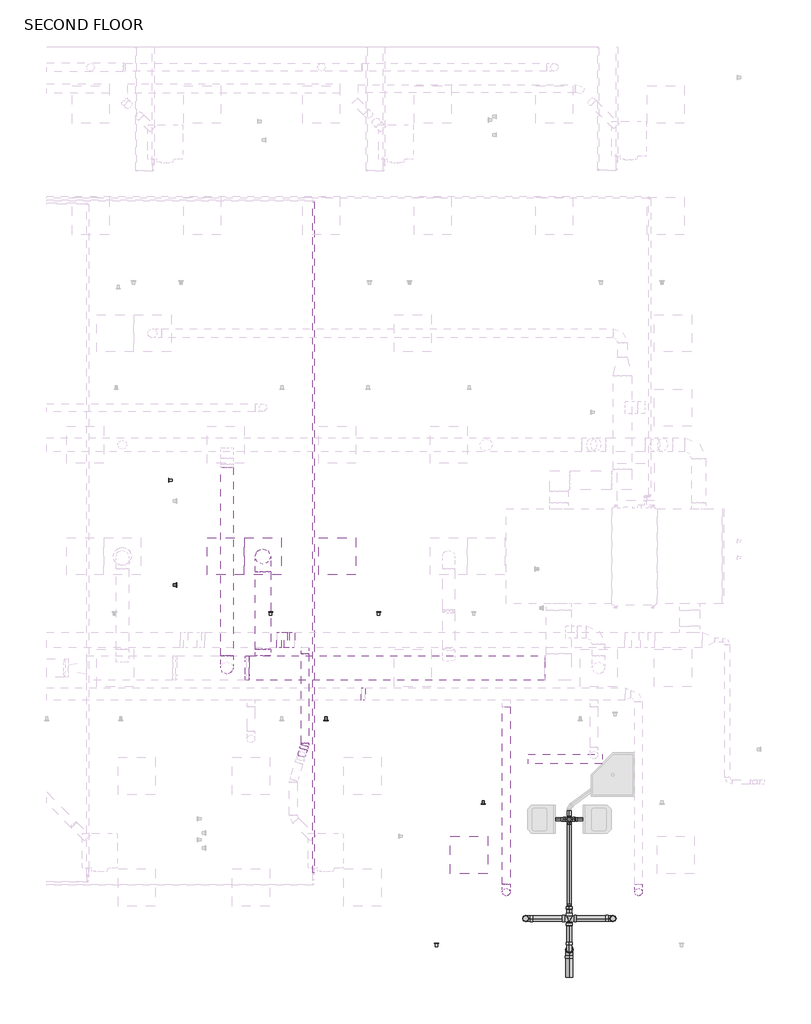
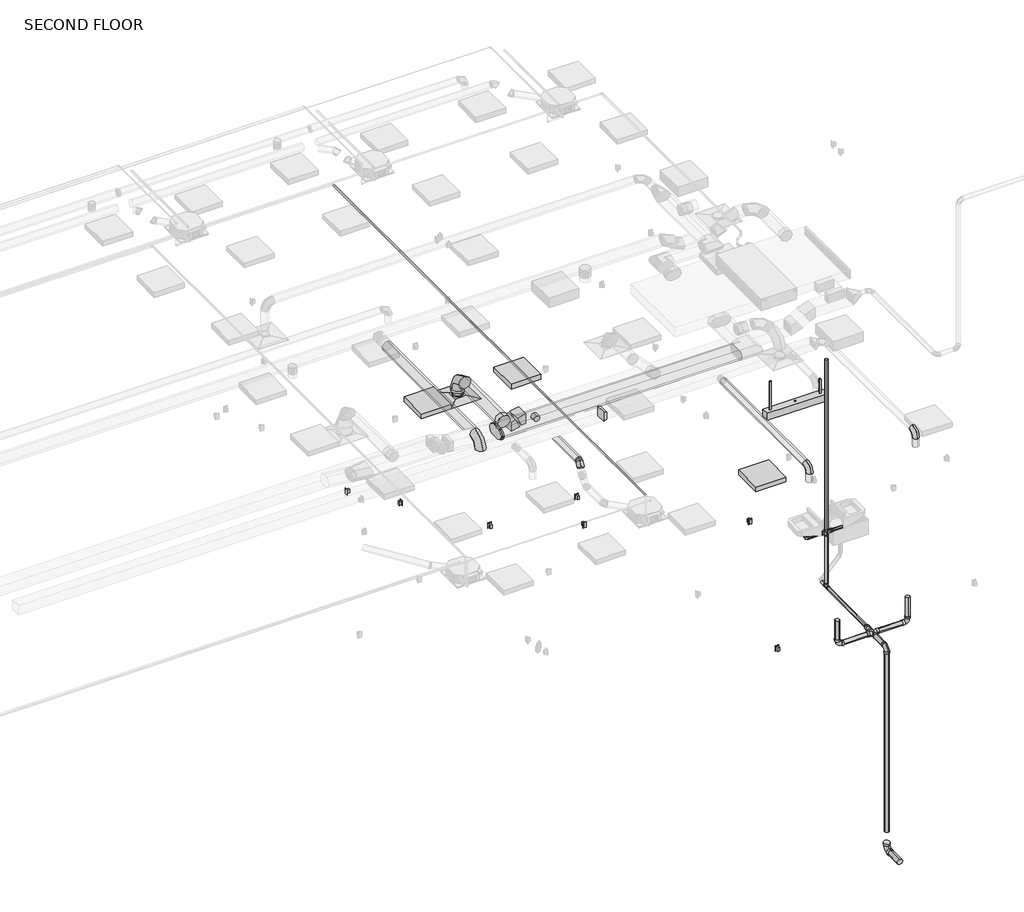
# One storey, part 4 of 12: 17 pipe segments, 13 duct fittings, 12 pipe fittings, 10 duct segments, 4 light fixtures, 3 switching devices, 2 electric appliances, 2 proxies, 1 air terminal.
"""IFC4 building model written with IfcOpenShell, lengths in millimetres."""

from ifc_helpers import new_model, si_unit, point, frame, frame_2d, origin, place, context, project, spatial, polyline, circle_curve, trimmed, segment, composite_curve, outline, extrude, transform, mapped, element, save
from components import air_terminal_e9020785, duplex_receptacle_countertop_10251bba, oval_elbow_mitered_standard_605f781d, rectangular_elbow_radius_1_5_w_1e05c444, rectangular_transition_angle_45_degree_f04e55b7, round_elbow_1_d_eb5e9ad8, round_elbow_1_d_01278626, round_elbow_1_d_a253342a, round_elbow_1_d_c80420c1, round_elbow_1_d_e3dc691b, round_takeoff_standard_7fe2b2d5, round_takeoff_standard_86724b47, round_transition_angle_45_degree_6c335ea7, telephone_outlet_data_plain_18c24199, suspended_fluorescent_strip_non_hosted_strip_light_1x4_120v_a5e6163e, troffer_corner_insert_2x2_3lamp_e67c7f8f, bend_pvc_sch_40_dwv_standard_738aab8b, bend_pvc_sch_40_dwv_standard_a4b99d37, bend_pvc_sch_40_dwv_standard_5536a2d2, bend_pvc_sch_40_dwv_standard_1fb0f857, reducer_pvc_sch_40_dwv_standard_44865e00, reducer_pvc_sch_40_dwv_standard_230e9924, tee_double_sanitary_pvc_sch_40_dwv_standard_0560fe9e, tee_double_sanitary_pvc_sch_40_dwv_standard_2fd41c53, tee_sanitary_pvc_sch_40_dwv_standard_c06fe43b

model = new_model("IFC4")

# Units and contexts
model_context = context("Model", 3, world=origin())
ifc_project = project(units=[si_unit("LENGTHUNIT", "METRE", prefix="MILLI")], contexts=[model_context])

# Site, building, storey
site = spatial("IfcSite", under=ifc_project)
building = spatial("IfcBuilding", under=site)
storey = spatial("IfcBuildingStorey", under=building, Name="SECOND FLOOR", Elevation=34544.0)

# Air terminal
placement = place(None, origin())
air_terminal_shape = air_terminal_e9020785(model_context)
element("IfcAirTerminal", 1, ObjectType="Supply Diffuser - Rectangular Face Round Neck - Hosted : 24\"x24\" Face 8\" Neck - Hosted", at=placement, inside=storey, context=model_context, shape_type="MappedRepresentation", body=[
    mapped(air_terminal_shape, transform((5669.1232893, -751.4804995, 37287.2), x_axis=(-1.0, 0.0, 0.0), y_axis=(0.0, 1.0, 0.0), z_axis=(0.0, 0.0, -1.0))),
])

# Proxies
duplex_receptacle_countertop_shape = duplex_receptacle_countertop_10251bba(model_context)
element("IfcBuildingElementProxy", 2, Name="Duplex Receptacle : GFCI", ObjectType="Duplex Receptacle : GFCI", at=placement, inside=storey, context=model_context, shape_type="MappedRepresentation", body=[
    mapped(duplex_receptacle_countertop_shape, transform((8516.31879, -7095.1304995, 34696.4), x_axis=(-1.0, 0.0, 0.0), y_axis=(0.0, 0.0, 1.0), z_axis=(0.0, 1.0, 0.0))),
])
element("IfcBuildingElementProxy", 3, Name="Duplex Receptacle : Standard", ObjectType="Duplex Receptacle : Standard", at=placement, inside=storey, context=model_context, shape_type="MappedRepresentation", body=[
    mapped(duplex_receptacle_countertop_shape, transform((5796.2112859, -1665.8804995, 35001.2), x_axis=(-1.0, 0.0, 0.0), y_axis=(0.0, 0.0, 1.0), z_axis=(0.0, 1.0, 0.0))),
])

# Duct fittings
oval_elbow_mitered_standard_shape = oval_elbow_mitered_standard_605f781d(model_context)
element("IfcDuctFitting", 4, ObjectType="Oval Elbow - Mitered : Standard", at=placement, inside=storey, context=model_context, shape_type="MappedRepresentation", body=[
    mapped(oval_elbow_mitered_standard_shape, transform((5416.9741542, -2580.2804995, 37711.1892428), x_axis=(-1.0, 0.0, 0.0), y_axis=(0.0, 0.0, 1.0), z_axis=(0.0, 1.0, 0.0))),
])
rectangular_elbow_radius_1_5_w_shape = rectangular_elbow_radius_1_5_w_1e05c444(model_context)
element("IfcDuctFitting", 5, ObjectType="Rectangular Elbow - Radius : 1.5 W", at=placement, inside=storey, context=model_context, shape_type="MappedRepresentation", body=[
    mapped(rectangular_elbow_radius_1_5_w_shape, transform((6123.5451964, -2123.0804995, 37515.8), x_axis=(-1.0, 0.0, 0.0), y_axis=(0.0, 0.0, -1.0), z_axis=(0.0, -1.0, 0.0))),
])
element("IfcDuctFitting", 6, ObjectType="Rectangular Elbow - Radius : 1.5 W", at=placement, inside=storey, context=model_context, shape_type="MappedRepresentation", body=[
    mapped(rectangular_elbow_radius_1_5_w_shape, transform((5964.0014464, -2123.0804995, 37439.6), x_axis=(1.0, 0.0, 0.0), y_axis=(0.0, 0.0, 1.0), z_axis=(0.0, -1.0, 0.0))),
])
rectangular_transition_angle_45_degree_shape = rectangular_transition_angle_45_degree_f04e55b7(model_context)
element("IfcDuctFitting", 7, ObjectType="Rectangular Transition - Angle : 45 Degree", at=placement, inside=storey, context=model_context, shape_type="MappedRepresentation", body=[
    mapped(rectangular_transition_angle_45_degree_shape, transform((7344.8230026, -3010.2706668, 37693.6), x_axis=(-1.0, 0.0, 0.0), y_axis=(0.0, -1.0, 0.0), z_axis=(0.0, 0.0, 1.0))),
])
round_elbow_1_d_shape = round_elbow_1_d_eb5e9ad8(model_context)
element("IfcDuctFitting", 8, ObjectType="Round Elbow : 1 D", at=placement, inside=storey, context=model_context, shape_type="MappedRepresentation", body=[
    mapped(round_elbow_1_d_shape, transform((5669.1232893, -751.4804995, 37711.1617188), x_axis=(0.0, 0.0, 1.0), y_axis=(0.0, -1.0, 0.0), z_axis=(1.0, 0.0, 0.0))),
])
round_elbow_1_d_2_shape = round_elbow_1_d_01278626(model_context)
element("IfcDuctFitting", 9, ObjectType="Round Elbow : 1 D", at=placement, inside=storey, context=model_context, shape_type="MappedRepresentation", body=[
    mapped(round_elbow_1_d_2_shape, transform((6360.2841398, -3835.1472328, 37515.8), x_axis=(0.30330149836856, 0.9528946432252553, 0.0), y_axis=(-0.9528946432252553, 0.30330149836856, 0.0), z_axis=(0.0, 0.0, 1.0))),
])
round_elbow_1_d_3_shape = round_elbow_1_d_a253342a(model_context)
element("IfcDuctFitting", 10, ObjectType="Round Elbow : 1 D", at=placement, inside=storey, context=model_context, shape_type="MappedRepresentation", body=[
    mapped(round_elbow_1_d_3_shape, transform((5077.7795393, -2580.2804995, 37668.2), x_axis=(0.0, 0.0, 1.0), y_axis=(0.0, 1.0, 0.0), z_axis=(-1.0, 0.0, 0.0))),
])
round_elbow_1_d_4_shape = round_elbow_1_d_c80420c1(model_context)
element("IfcDuctFitting", 11, ObjectType="Round Elbow : 1 D", at=placement, inside=storey, context=model_context, shape_type="MappedRepresentation", body=[
    mapped(round_elbow_1_d_4_shape, transform((11827.8295393, -6256.9304995, 37693.6), x_axis=(0.0, 0.0, 1.0), y_axis=(0.0, 1.0, 0.0), z_axis=(-1.0, 0.0, 0.0))),
])
element("IfcDuctFitting", 12, ObjectType="Round Elbow : 1 D", at=placement, inside=storey, context=model_context, shape_type="MappedRepresentation", body=[
    mapped(round_elbow_1_d_4_shape, transform((9659.3045393, -6256.9304995, 37693.6), x_axis=(0.0, 0.0, 1.0), y_axis=(0.0, 1.0, 0.0), z_axis=(-1.0, 0.0, 0.0))),
])
round_elbow_1_d_5_shape = round_elbow_1_d_e3dc691b(model_context)
element("IfcDuctFitting", 13, ObjectType="Round Elbow : 1 D", at=placement, inside=storey, context=model_context, shape_type="MappedRepresentation", body=[
    mapped(round_elbow_1_d_5_shape, transform((6320.031624, -3961.6101976, 37515.8), x_axis=(-0.30330149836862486, -0.9528946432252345, 0.0), y_axis=(0.0, 0.0, -1.0), z_axis=(0.9528946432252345, -0.30330149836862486, 0.0))),
])
round_takeoff_standard_shape = round_takeoff_standard_7fe2b2d5(model_context)
element("IfcDuctFitting", 14, ObjectType="Round Takeoff : Standard", at=placement, inside=storey, context=model_context, shape_type="MappedRepresentation", body=[
    mapped(round_takeoff_standard_shape, transform((6360.2841398, -2250.0804995, 37515.8), x_axis=(0.0, -1.0, 0.0), y_axis=(-1.0, 0.0, 0.0), z_axis=(0.0, 0.0, -1.0))),
])
round_takeoff_standard_2_shape = round_takeoff_standard_86724b47(model_context)
element("IfcDuctFitting", 15, ObjectType="Round Takeoff : Standard", at=placement, inside=storey, context=model_context, shape_type="MappedRepresentation", body=[
    mapped(round_takeoff_standard_2_shape, transform((5669.1232893, -2377.0804995, 37711.1892428), x_axis=(0.0, 0.99999999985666, -1.693163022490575e-05), y_axis=(1.0, 0.0, 0.0), z_axis=(0.0, -1.693163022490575e-05, -0.99999999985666))),
])
round_transition_angle_45_degree_shape = round_transition_angle_45_degree_6c335ea7(model_context)
element("IfcDuctFitting", 16, ObjectType="Round Transition - Angle : 45 Degree", at=placement, inside=storey, context=model_context, shape_type="MappedRepresentation", body=[
    mapped(round_transition_angle_45_degree_shape, transform((5669.1232893, -751.4804995, 37341.175), x_axis=(0.0, 0.0, 1.0), y_axis=(1.0, 0.0, 0.0), z_axis=(0.0, 1.0, 0.0))),
])

# Duct segments
element("IfcDuctSegment", 17, ObjectType="Mitered Elbows / Taps", at=placement, inside=storey, context=model_context, shape_type="SweptSolid", body=[
    extrude(outline(composite_curve([segment(trimmed(circle_curve(frame_2d((-2478.6804995, 37711.1892428)), 101.6), [point((-2478.6804995, 37812.7892428))], [point((-2377.0804995, 37711.1892428))], False, "CARTESIAN"), True, "CONTINUOUS"), segment(trimmed(circle_curve(frame_2d((-2478.6804995, 37711.1892428)), 101.6), [point((-2377.0804995, 37711.1892428))], [point((-2478.6804995, 37609.5892428))], False, "CARTESIAN"), True, "CONTINUOUS"), segment(polyline([(-2478.6804995, 37609.5892428), (-2681.8804995, 37609.5892428)]), True, "CONTINUOUS"), segment(trimmed(circle_curve(frame_2d((-2681.8804995, 37711.1892428)), 101.6), [point((-2681.8804995, 37609.5892428))], [point((-2783.4804995, 37711.1892428))], False, "CARTESIAN"), True, "CONTINUOUS"), segment(trimmed(circle_curve(frame_2d((-2681.8804995, 37711.1892428)), 101.6), [point((-2783.4804995, 37711.1892428))], [point((-2681.8804995, 37812.7892428))], False, "CARTESIAN"), True, "CONTINUOUS"), segment(polyline([(-2681.8804995, 37812.7892428), (-2478.6804995, 37812.7892428)]), True, "CONTINUOUS")], self_intersect=False)), frame((5447.0075088, 0.0, 0.0), z_axis=(1.0, 0.0, 0.0), x_axis=(0.0, 1.0, 0.0)), (0.0, 0.0, 1.0), 4846.9001554),
])
element("IfcDuctSegment", 18, ObjectType="Radius Elbows / Taps", at=placement, inside=storey, context=model_context, shape_type="SweptSolid", body=[
    extrude(outline(polyline([(0.0, -254.0), (0.0, 0.0), (38.702328, 0.0), (38.702328, -254.0), (0.0, -254.0)])), frame((6105.0225304, -2250.0804995, 37394.3599619), z_axis=(-0.43097887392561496, 0.0, 0.9023620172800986), x_axis=(-0.9023620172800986, 0.0, -0.43097887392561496)), (0.0, 0.0, 1.0), 203.2),
])
element("IfcDuctSegment", 19, ObjectType="Taps / Short Radius", at=placement, inside=storey, context=model_context, shape_type="SweptSolid", body=[
    extrude(outline(composite_curve([segment(trimmed(circle_curve(frame_2d((11827.8295393, -6256.9304995)), 63.5), [point((11891.3295393, -6256.9304995))], [point((11827.8295393, -6320.4304995))], False, "CARTESIAN"), True, "CONTINUOUS"), segment(trimmed(circle_curve(frame_2d((11827.8295393, -6256.9304995)), 63.5), [point((11827.8295393, -6320.4304995))], [point((11764.3295393, -6256.9304995))], False, "CARTESIAN"), True, "CONTINUOUS"), segment(trimmed(circle_curve(frame_2d((11827.8295393, -6256.9304995)), 63.5), [point((11764.3295393, -6256.9304995))], [point((11827.8295393, -6193.4304995))], False, "CARTESIAN"), True, "CONTINUOUS"), segment(trimmed(circle_curve(frame_2d((11827.8295393, -6256.9304995)), 63.5), [point((11827.8295393, -6193.4304995))], [point((11891.3295393, -6256.9304995))], False, "CARTESIAN"), True, "CONTINUOUS")], self_intersect=False)), frame((0.0, 0.0, 37388.8), z_axis=(0.0, 0.0, 1.0), x_axis=(1.0, 0.0, 0.0)), (0.0, 0.0, 1.0), 177.8),
])
element("IfcDuctSegment", 20, ObjectType="Taps / Short Radius", at=placement, inside=storey, context=model_context, shape_type="SweptSolid", body=[
    extrude(outline(composite_curve([segment(trimmed(circle_curve(frame_2d((9659.3045393, -6256.9304995)), 63.5), [point((9595.8045393, -6256.9304995))], [point((9659.3045393, -6193.4304995))], False, "CARTESIAN"), True, "CONTINUOUS"), segment(trimmed(circle_curve(frame_2d((9659.3045393, -6256.9304995)), 63.5), [point((9659.3045393, -6193.4304995))], [point((9722.8045393, -6256.9304995))], False, "CARTESIAN"), True, "CONTINUOUS"), segment(trimmed(circle_curve(frame_2d((9659.3045393, -6256.9304995)), 63.5), [point((9722.8045393, -6256.9304995))], [point((9659.3045393, -6320.4304995))], False, "CARTESIAN"), True, "CONTINUOUS"), segment(trimmed(circle_curve(frame_2d((9659.3045393, -6256.9304995)), 63.5), [point((9659.3045393, -6320.4304995))], [point((9595.8045393, -6256.9304995))], False, "CARTESIAN"), True, "CONTINUOUS")], self_intersect=False)), frame((0.0, 0.0, 37388.8), z_axis=(0.0, 0.0, 1.0), x_axis=(1.0, 0.0, 0.0)), (0.0, 0.0, 1.0), 177.8),
])
element("IfcDuctSegment", 21, ObjectType="Taps / Short Radius", at=placement, inside=storey, context=model_context, shape_type="SweptSolid", body=[
    extrude(outline(composite_curve([segment(trimmed(circle_curve(frame_2d((37693.6, 9659.3045393)), 63.5), [point((37693.6, 9722.8045393))], [point((37757.1, 9659.3045393))], False, "CARTESIAN"), True, "CONTINUOUS"), segment(trimmed(circle_curve(frame_2d((37693.6, 9659.3045393)), 63.5), [point((37757.1, 9659.3045393))], [point((37693.6, 9595.8045393))], False, "CARTESIAN"), True, "CONTINUOUS"), segment(trimmed(circle_curve(frame_2d((37693.6, 9659.3045393)), 63.5), [point((37693.6, 9595.8045393))], [point((37630.1, 9659.3045393))], False, "CARTESIAN"), True, "CONTINUOUS"), segment(trimmed(circle_curve(frame_2d((37693.6, 9659.3045393)), 63.5), [point((37630.1, 9659.3045393))], [point((37693.6, 9722.8045393))], False, "CARTESIAN"), True, "CONTINUOUS")], self_intersect=False)), frame((0.0, -6129.9304995, 0.0), z_axis=(0.0, 1.0, 0.0), x_axis=(0.0, 0.0, 1.0)), (0.0, 0.0, 1.0), 2916.4598327),
])
element("IfcDuctSegment", 22, ObjectType="Taps / Short Radius", at=placement, inside=storey, context=model_context, shape_type="SweptSolid", body=[
    extrude(outline(composite_curve([segment(trimmed(circle_curve(frame_2d((37668.2, 5077.7795393)), 101.6), [point((37668.2, 4976.1795393))], [point((37566.6, 5077.7795393))], False, "CARTESIAN"), True, "CONTINUOUS"), segment(trimmed(circle_curve(frame_2d((37668.2, 5077.7795393)), 101.6), [point((37566.6, 5077.7795393))], [point((37668.2, 5179.3795393))], False, "CARTESIAN"), True, "CONTINUOUS"), segment(trimmed(circle_curve(frame_2d((37668.2, 5077.7795393)), 101.6), [point((37668.2, 5179.3795393))], [point((37769.8, 5077.7795393))], False, "CARTESIAN"), True, "CONTINUOUS"), segment(trimmed(circle_curve(frame_2d((37668.2, 5077.7795393)), 101.6), [point((37769.8, 5077.7795393))], [point((37668.2, 4976.1795393))], False, "CARTESIAN"), True, "CONTINUOUS")], self_intersect=False)), frame((0.0, -2377.0804995, 0.0), z_axis=(0.0, 1.0, 0.0), x_axis=(0.0, 0.0, 1.0)), (0.0, 0.0, 1.0), 3085.0060702),
])
element("IfcDuctSegment", 23, ObjectType="Taps / Short Radius", at=placement, inside=storey, context=model_context, shape_type="SweptSolid", body=[
    extrude(outline(composite_curve([segment(trimmed(circle_curve(frame_2d((37515.8, 6360.2841398)), 63.5), [point((37515.8, 6296.7841398))], [point((37452.3, 6360.2841398))], False, "CARTESIAN"), True, "CONTINUOUS"), segment(trimmed(circle_curve(frame_2d((37515.8, 6360.2841398)), 63.5), [point((37452.3, 6360.2841398))], [point((37515.8, 6423.7841398))], False, "CARTESIAN"), True, "CONTINUOUS"), segment(trimmed(circle_curve(frame_2d((37515.8, 6360.2841398)), 63.5), [point((37515.8, 6423.7841398))], [point((37579.3, 6360.2841398))], False, "CARTESIAN"), True, "CONTINUOUS"), segment(trimmed(circle_curve(frame_2d((37515.8, 6360.2841398)), 63.5), [point((37579.3, 6360.2841398))], [point((37515.8, 6296.7841398))], False, "CARTESIAN"), True, "CONTINUOUS")], self_intersect=False)), frame((0.0, -3815.4230298, 0.0), z_axis=(0.0, 1.0, 0.0), x_axis=(0.0, 0.0, 1.0)), (0.0, 0.0, 1.0), 1463.7425303),
])
element("IfcDuctSegment", 24, ObjectType="Taps / Short Radius", at=placement, inside=storey, context=model_context, shape_type="SweptSolid", body=[
    extrude(outline(composite_curve([segment(trimmed(circle_curve(frame_2d((0.0, 127.0)), 127.0), [point((0.0, 0.0))], [point((-127.0, 127.0))], False, "CARTESIAN"), True, "CONTINUOUS"), segment(trimmed(circle_curve(frame_2d((0.0, 127.0)), 127.0), [point((-127.0, 127.0))], [point((0.0, 254.0))], False, "CARTESIAN"), True, "CONTINUOUS"), segment(trimmed(circle_curve(frame_2d((0.0, 127.0)), 127.0), [point((0.0, 254.0))], [point((127.0, 127.0))], False, "CARTESIAN"), True, "CONTINUOUS"), segment(trimmed(circle_curve(frame_2d((0.0, 127.0)), 127.0), [point((127.0, 127.0))], [point((0.0, 0.0))], False, "CARTESIAN"), True, "CONTINUOUS")], self_intersect=False)), frame((5542.1232893, -1005.4761989, 37711.1660193), z_axis=(0.0, -0.99999999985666, 1.6931630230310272e-05), x_axis=(0.0, -1.6931630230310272e-05, -0.99999999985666)), (0.0, 0.0, 1.0), 1270.0043008),
])
element("IfcDuctSegment", 25, ObjectType="Taps / Short Radius", at=placement, inside=storey, context=model_context, shape_type="SweptSolid", body=[
    extrude(outline(composite_curve([segment(trimmed(circle_curve(frame_2d((5669.1232893, -751.4804995)), 127.0), [point((5542.1232893, -751.4804995))], [point((5669.1232893, -624.4804995))], False, "CARTESIAN"), True, "CONTINUOUS"), segment(trimmed(circle_curve(frame_2d((5669.1232893, -751.4804995)), 127.0), [point((5669.1232893, -624.4804995))], [point((5796.1232893, -751.4804995))], False, "CARTESIAN"), True, "CONTINUOUS"), segment(trimmed(circle_curve(frame_2d((5669.1232893, -751.4804995)), 127.0), [point((5796.1232893, -751.4804995))], [point((5669.1232893, -878.4804995))], False, "CARTESIAN"), True, "CONTINUOUS"), segment(trimmed(circle_curve(frame_2d((5669.1232893, -751.4804995)), 127.0), [point((5669.1232893, -878.4804995))], [point((5542.1232893, -751.4804995))], False, "CARTESIAN"), True, "CONTINUOUS")], self_intersect=False)), frame((0.0, 0.0, 37402.4960245), z_axis=(0.0, 0.0, 1.0), x_axis=(1.0, 0.0, 0.0)), (0.0, 0.0, 1.0), 54.6699949),
])
element("IfcDuctSegment", 26, ObjectType="Taps / Short Radius", at=placement, inside=storey, context=model_context, shape_type="SweptSolid", body=[
    extrude(outline(composite_curve([segment(trimmed(circle_curve(frame_2d((0.0, -63.5)), 63.5), [point((-63.4999999, -63.5))], [point((0.0, 0.0))], False, "CARTESIAN"), True, "CONTINUOUS"), segment(trimmed(circle_curve(frame_2d((0.0, -63.5)), 63.5), [point((0.0, 0.0))], [point((63.5000001, -63.5))], False, "CARTESIAN"), True, "CONTINUOUS"), segment(trimmed(circle_curve(frame_2d((0.0, -63.5)), 63.5), [point((63.5000001, -63.5))], [point((0.0, -127.0))], False, "CARTESIAN"), True, "CONTINUOUS"), segment(trimmed(circle_curve(frame_2d((0.0, -63.5)), 63.5), [point((0.0, -127.0))], [point((-63.4999999, -63.5))], False, "CARTESIAN"), True, "CONTINUOUS")], self_intersect=False)), frame((6335.9868364, -3911.4830582, 37452.3), z_axis=(0.30330149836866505, 0.9528946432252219, 0.0), x_axis=(0.9528946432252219, -0.30330149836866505, 0.0)), (0.0, 0.0, 1.0), 60.3852047),
])

# Electric appliances
telephone_outlet_data_plain_shape = telephone_outlet_data_plain_18c24199(model_context)
element("IfcElectricAppliance", 27, ObjectType="Telephone Outlet - Data : Plain", at=placement, inside=storey, context=model_context, shape_type="MappedRepresentation", body=[
    mapped(telephone_outlet_data_plain_shape, transform((6687.5074521, -1665.8804995, 34143.95), x_axis=(-1.0, 0.0, 0.0), y_axis=(0.0, 0.0, 1.0), z_axis=(0.0, 1.0, 0.0))),
])
element("IfcElectricAppliance", 28, ObjectType="Telephone Outlet - Data : Plain", at=placement, inside=storey, context=model_context, shape_type="MappedRepresentation", body=[
    mapped(telephone_outlet_data_plain_shape, transform((4126.8670393, -382.8485334, 34143.95), x_axis=(0.0, -1.0, 0.0), y_axis=(0.0, 0.0, 1.0), z_axis=(-1.0, 0.0, 0.0))),
])

# Light fixtures
suspended_fluorescent_strip_non_hosted_strip_light_1x4_120v_shape = suspended_fluorescent_strip_non_hosted_strip_light_1x4_120v_a5e6163e(model_context)
element("IfcLightFixture", 29, ObjectType="Suspended Fluorescent Strip - Non-Hosted : Strip Light 1x4 - 120V Normal", at=placement, inside=storey, context=model_context, shape_type="MappedRepresentation", body=[
    mapped(suspended_fluorescent_strip_non_hosted_strip_light_1x4_120v_shape, transform((10626.0920393, -4075.7054995, 37287.2), x_axis=(1.0, 0.0, 0.0), y_axis=(0.0, 1.0, 0.0), z_axis=(0.0, 0.0, 1.0))),
])
troffer_corner_insert_2x2_3lamp_shape = troffer_corner_insert_2x2_3lamp_e67c7f8f(model_context)
element("IfcLightFixture", 30, ObjectType="Troffer Corner Insert : 2x2 3Lamp", at=placement, inside=storey, context=model_context, shape_type="MappedRepresentation", body=[
    mapped(troffer_corner_insert_2x2_3lamp_shape, transform((9049.7045393, -5647.3304995, 34848.8), x_axis=(1.0, 0.0, 0.0), y_axis=(0.0, 1.0, 0.0), z_axis=(0.0, 0.0, 1.0))),
])
element("IfcLightFixture", 31, ObjectType="Troffer Corner Insert : 2x2 3Lamp", at=placement, inside=storey, context=model_context, shape_type="MappedRepresentation", body=[
    mapped(troffer_corner_insert_2x2_3lamp_shape, transform((5059.5232893, -751.4804995, 34848.8), x_axis=(1.0, 0.0, 0.0), y_axis=(0.0, 1.0, 0.0), z_axis=(0.0, 0.0, 1.0))),
])
element("IfcLightFixture", 32, ObjectType="Troffer Corner Insert : 2x2 3Lamp", at=placement, inside=storey, context=model_context, shape_type="MappedRepresentation", body=[
    mapped(troffer_corner_insert_2x2_3lamp_shape, transform((6888.3232893, -751.4804995, 34848.8), x_axis=(1.0, 0.0, 0.0), y_axis=(0.0, 1.0, 0.0), z_axis=(0.0, 0.0, 1.0))),
])

# Pipe fittings
bend_pvc_sch_40_dwv_standard_shape = bend_pvc_sch_40_dwv_standard_738aab8b(model_context)
element("IfcPipeFitting", 33, ObjectType="Bend - PVC - Sch 40 - DWV : Standard", at=placement, inside=storey, context=model_context, shape_type="MappedRepresentation", body=[
    mapped(bend_pvc_sch_40_dwv_standard_shape, transform((11122.9299299, -5063.1304995, 35204.4), x_axis=(0.0, 0.0, -1.0), y_axis=(-0.9999999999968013, -2.5292969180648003e-06, 0.0), z_axis=(-2.5292969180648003e-06, 0.9999999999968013, 0.0))),
])
element("IfcPipeFitting", 34, ObjectType="Bend - PVC - Sch 40 - DWV : Standard", at=placement, inside=storey, context=model_context, shape_type="MappedRepresentation", body=[
    mapped(bend_pvc_sch_40_dwv_standard_shape, transform((10262.5545393, -5063.1304995, 35204.4), x_axis=(0.0, 0.0, -1.0), y_axis=(0.9999999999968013, -2.529296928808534e-06, 0.0), z_axis=(-2.529296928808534e-06, -0.9999999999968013, 0.0))),
])
bend_pvc_sch_40_dwv_standard_2_shape = bend_pvc_sch_40_dwv_standard_a4b99d37(model_context)
element("IfcPipeFitting", 35, ObjectType="Bend - PVC - Sch 40 - DWV : Standard", at=placement, inside=storey, context=model_context, shape_type="MappedRepresentation", body=[
    mapped(bend_pvc_sch_40_dwv_standard_2_shape, transform((11408.6799299, -6688.7304995, 34017.6868466), x_axis=(0.0, 0.0, -1.0), y_axis=(-1.0, 0.0, 0.0), z_axis=(0.0, 1.0, 0.0))),
])
element("IfcPipeFitting", 36, ObjectType="Bend - PVC - Sch 40 - DWV : Standard", at=placement, inside=storey, context=model_context, shape_type="MappedRepresentation", body=[
    mapped(bend_pvc_sch_40_dwv_standard_2_shape, transform((9976.8045393, -6688.7304995, 34017.6868466), x_axis=(0.0, 0.0, -1.0), y_axis=(1.0, 0.0, 0.0), z_axis=(0.0, -1.0, 0.0))),
])
bend_pvc_sch_40_dwv_standard_3_shape = bend_pvc_sch_40_dwv_standard_5536a2d2(model_context)
element("IfcPipeFitting", 37, ObjectType="Bend - PVC - Sch 40 - DWV : Standard", at=placement, inside=storey, context=model_context, shape_type="MappedRepresentation", body=[
    mapped(bend_pvc_sch_40_dwv_standard_3_shape, transform((10692.7422346, -7196.7161279, 34012.3953296), x_axis=(0.0, -0.9999457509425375, -0.010416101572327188), y_axis=(0.0, 0.010416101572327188, -0.9999457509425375), z_axis=(1.0, 0.0, 0.0))),
])
bend_pvc_sch_40_dwv_standard_4_shape = bend_pvc_sch_40_dwv_standard_1fb0f857(model_context)
element("IfcPipeFitting", 38, ObjectType="Bend - PVC - Sch 40 - DWV : Standard", at=placement, inside=storey, context=model_context, shape_type="MappedRepresentation", body=[
    mapped(bend_pvc_sch_40_dwv_standard_4_shape, transform((10692.7422346, -7196.7161279, 29667.2), x_axis=(0.0, 0.0, -1.0), y_axis=(0.0, -1.0, 0.0), z_axis=(-1.0, 0.0, 0.0))),
])
reducer_pvc_sch_40_dwv_standard_shape = reducer_pvc_sch_40_dwv_standard_44865e00(model_context)
element("IfcPipeFitting", 39, ObjectType="Reducer - PVC - Sch 40 - DWV : Standard", at=placement, inside=storey, context=model_context, shape_type="MappedRepresentation", body=[
    mapped(reducer_pvc_sch_40_dwv_standard_shape, transform((10692.7422346, -6454.6677731, 34020.125), x_axis=(0.0, -0.9999457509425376, -0.010416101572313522), y_axis=(1.0, 0.0, 0.0), z_axis=(0.0, -0.010416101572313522, 0.9999457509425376))),
])
reducer_pvc_sch_40_dwv_standard_2_shape = reducer_pvc_sch_40_dwv_standard_230e9924(model_context)
element("IfcPipeFitting", 40, ObjectType="Reducer - PVC - Sch 40 - DWV : Standard", at=placement, inside=storey, context=model_context, shape_type="MappedRepresentation", body=[
    mapped(reducer_pvc_sch_40_dwv_standard_2_shape, transform((10820.5296346, -5063.1311379, 35204.4), x_axis=(-0.9999999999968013, -2.5292969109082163e-06, 0.0), y_axis=(2.5292969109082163e-06, -0.9999999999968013, 0.0), z_axis=(0.0, 0.0, 1.0))),
])
element("IfcPipeFitting", 41, ObjectType="Reducer - PVC - Sch 40 - DWV : Standard", at=placement, inside=storey, context=model_context, shape_type="MappedRepresentation", body=[
    mapped(reducer_pvc_sch_40_dwv_standard_2_shape, transform((10564.9548346, -5063.1311379, 35204.4), x_axis=(0.9999999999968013, -2.5292969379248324e-06, 0.0), y_axis=(2.5292969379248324e-06, 0.9999999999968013, 0.0), z_axis=(0.0, 0.0, 1.0))),
])
tee_double_sanitary_pvc_sch_40_dwv_standard_shape = tee_double_sanitary_pvc_sch_40_dwv_standard_0560fe9e(model_context)
element("IfcPipeFitting", 42, ObjectType="Tee Double Sanitary - PVC - Sch 40 - DWV : Standard", at=placement, inside=storey, context=model_context, shape_type="MappedRepresentation", body=[
    mapped(tee_double_sanitary_pvc_sch_40_dwv_standard_shape, transform((10692.7422346, -6688.7304995, 34017.6868466), x_axis=(0.0, 0.9999457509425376, 0.010416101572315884), y_axis=(1.0000000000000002, 0.0, 0.0), z_axis=(0.0, 0.010416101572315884, -0.9999457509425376))),
])
tee_double_sanitary_pvc_sch_40_dwv_standard_2_shape = tee_double_sanitary_pvc_sch_40_dwv_standard_2fd41c53(model_context)
element("IfcPipeFitting", 43, ObjectType="Tee Double Sanitary - PVC - Sch 40 - DWV : Standard", at=placement, inside=storey, context=model_context, shape_type="MappedRepresentation", body=[
    mapped(tee_double_sanitary_pvc_sch_40_dwv_standard_2_shape, transform((10692.7422346, -5063.1312643, 35204.4), x_axis=(0.0, -1.4170636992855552e-05, 0.9999999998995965), y_axis=(1.0, 0.0, 0.0), z_axis=(0.0, 0.9999999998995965, 1.4170636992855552e-05))),
])
tee_sanitary_pvc_sch_40_dwv_standard_shape = tee_sanitary_pvc_sch_40_dwv_standard_c06fe43b(model_context)
element("IfcPipeFitting", 44, ObjectType="Tee Sanitary - PVC - Sch 40 - DWV : Standard", at=placement, inside=storey, context=model_context, shape_type="MappedRepresentation", body=[
    mapped(tee_sanitary_pvc_sch_40_dwv_standard_shape, transform((10692.7422346, -5063.1150513, 34034.6203409), x_axis=(0.0, 0.9999457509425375, 0.010416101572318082), y_axis=(0.0, 0.010416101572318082, -0.9999457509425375), z_axis=(-1.0, 0.0, 0.0))),
])

# Pipe segments
element("IfcPipeSegment", 45, ObjectType="Copper Tubing", at=placement, inside=storey, context=model_context, shape_type="SweptSolid", body=[
    extrude(outline(composite_curve([segment(trimmed(circle_curve(frame_2d((37998.4, 6500.4970393)), 14.2875), [point((37998.4, 6514.7845393))], [point((38012.6875, 6500.4970393))], False, "CARTESIAN"), True, "CONTINUOUS"), segment(trimmed(circle_curve(frame_2d((37998.4, 6500.4970393)), 14.2875), [point((38012.6875, 6500.4970393))], [point((37998.4, 6486.2095393))], False, "CARTESIAN"), True, "CONTINUOUS"), segment(trimmed(circle_curve(frame_2d((37998.4, 6500.4970393)), 14.2875), [point((37998.4, 6486.2095393))], [point((37984.1125, 6500.4970393))], False, "CARTESIAN"), True, "CONTINUOUS"), segment(trimmed(circle_curve(frame_2d((37998.4, 6500.4970393)), 14.2875), [point((37984.1125, 6500.4970393))], [point((37998.4, 6514.7845393))], False, "CARTESIAN"), True, "CONTINUOUS")], self_intersect=False)), frame((0.0, -5940.3446348, 0.0), z_axis=(0.0, 1.0, 0.0), x_axis=(0.0, 0.0, 1.0)), (0.0, 0.0, 1.0), 11004.5772658),
])
element("IfcPipeSegment", 46, ObjectType="PVC - DWV", at=placement, inside=storey, context=model_context, shape_type="SweptSolid", body=[
    extrude(outline(composite_curve([segment(trimmed(circle_curve(frame_2d((11122.9299299, -5063.1304995)), 24.209375), [point((11147.1393049, -5063.1304995))], [point((11122.9299299, -5087.3398745))], False, "CARTESIAN"), True, "CONTINUOUS"), segment(trimmed(circle_curve(frame_2d((11122.9299299, -5063.1304995)), 24.209375), [point((11122.9299299, -5087.3398745))], [point((11098.7205549, -5063.1304995))], False, "CARTESIAN"), True, "CONTINUOUS"), segment(trimmed(circle_curve(frame_2d((11122.9299299, -5063.1304995)), 24.209375), [point((11098.7205549, -5063.1304995))], [point((11122.9299299, -5038.9211245))], False, "CARTESIAN"), True, "CONTINUOUS"), segment(trimmed(circle_curve(frame_2d((11122.9299299, -5063.1304995)), 24.209375), [point((11122.9299299, -5038.9211245))], [point((11147.1393049, -5063.1304995))], False, "CARTESIAN"), True, "CONTINUOUS")], self_intersect=False)), frame((0.0, 0.0, 35266.2998), z_axis=(0.0, 0.0, 1.0), x_axis=(1.0, 0.0, 0.0)), (0.0, 0.0, 1.0), 77.8002),
])
element("IfcPipeSegment", 47, ObjectType="PVC - DWV", at=placement, inside=storey, context=model_context, shape_type="SweptSolid", body=[
    extrude(outline(composite_curve([segment(trimmed(circle_curve(frame_2d((0.0, -24.209375)), 24.209375), [point((-24.209375, -24.209375))], [point((0.0, 0.0))], False, "CARTESIAN"), True, "CONTINUOUS"), segment(trimmed(circle_curve(frame_2d((0.0, -24.209375)), 24.209375), [point((0.0, 0.0))], [point((24.209375, -24.209375))], False, "CARTESIAN"), True, "CONTINUOUS"), segment(trimmed(circle_curve(frame_2d((0.0, -24.209375)), 24.209375), [point((24.209375, -24.209375))], [point((0.0, -48.41875))], False, "CARTESIAN"), True, "CONTINUOUS"), segment(trimmed(circle_curve(frame_2d((0.0, -24.209375)), 24.209375), [point((0.0, -48.41875))], [point((-24.209375, -24.209375))], False, "CARTESIAN"), True, "CONTINUOUS")], self_intersect=False)), frame((10820.5296346, -5063.1311379, 35180.190625), z_axis=(0.9999999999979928, 2.0035912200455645e-06, 0.0), x_axis=(2.0035912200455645e-06, -0.9999999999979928, 0.0)), (0.0, 0.0, 1.0), 240.5004953),
])
element("IfcPipeSegment", 48, ObjectType="PVC - DWV", at=placement, inside=storey, context=model_context, shape_type="SweptSolid", body=[
    extrude(outline(composite_curve([segment(trimmed(circle_curve(frame_2d((10262.5545393, -5063.1304995)), 24.209375), [point((10286.7639143, -5063.1304995))], [point((10262.5545393, -5087.3398745))], False, "CARTESIAN"), True, "CONTINUOUS"), segment(trimmed(circle_curve(frame_2d((10262.5545393, -5063.1304995)), 24.209375), [point((10262.5545393, -5087.3398745))], [point((10238.3451643, -5063.1304995))], False, "CARTESIAN"), True, "CONTINUOUS"), segment(trimmed(circle_curve(frame_2d((10262.5545393, -5063.1304995)), 24.209375), [point((10238.3451643, -5063.1304995))], [point((10262.5545393, -5038.9211245))], False, "CARTESIAN"), True, "CONTINUOUS"), segment(trimmed(circle_curve(frame_2d((10262.5545393, -5063.1304995)), 24.209375), [point((10262.5545393, -5038.9211245))], [point((10286.7639143, -5063.1304995))], False, "CARTESIAN"), True, "CONTINUOUS")], self_intersect=False)), frame((0.0, 0.0, 35266.2998), z_axis=(0.0, 0.0, 1.0), x_axis=(1.0, 0.0, 0.0)), (0.0, 0.0, 1.0), 77.8002),
])
element("IfcPipeSegment", 49, ObjectType="PVC - DWV", at=placement, inside=storey, context=model_context, shape_type="SweptSolid", body=[
    extrude(outline(composite_curve([segment(trimmed(circle_curve(frame_2d((0.0, -30.1625)), 30.1625), [point((-30.1625, -30.1625))], [point((0.0, 0.0))], False, "CARTESIAN"), True, "CONTINUOUS"), segment(trimmed(circle_curve(frame_2d((0.0, -30.1625)), 30.1625), [point((0.0, 0.0))], [point((30.1625, -30.1625))], False, "CARTESIAN"), True, "CONTINUOUS"), segment(trimmed(circle_curve(frame_2d((0.0, -30.1625)), 30.1625), [point((30.1625, -30.1625))], [point((0.0, -60.325))], False, "CARTESIAN"), True, "CONTINUOUS"), segment(trimmed(circle_curve(frame_2d((0.0, -30.1625)), 30.1625), [point((0.0, -60.325))], [point((-30.1625, -30.1625))], False, "CARTESIAN"), True, "CONTINUOUS")], self_intersect=False)), frame((10692.7422346, -6454.3535977, 33989.9641363), z_axis=(0.0, 0.9999457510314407, 0.010416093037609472), x_axis=(1.0, 0.0, 0.0)), (0.0, 0.0, 1.0), 1313.8280162),
])
element("IfcPipeSegment", 50, ObjectType="PVC - DWV", at=placement, inside=storey, context=model_context, shape_type="SweptSolid", body=[
    extrude(outline(composite_curve([segment(trimmed(circle_curve(frame_2d((0.0, -30.1625)), 30.1625), [point((-30.1625, -30.1625))], [point((0.0, 0.0))], False, "CARTESIAN"), True, "CONTINUOUS"), segment(trimmed(circle_curve(frame_2d((0.0, -30.1625)), 30.1625), [point((0.0, 0.0))], [point((30.1625, -30.1625))], False, "CARTESIAN"), True, "CONTINUOUS"), segment(trimmed(circle_curve(frame_2d((0.0, -30.1625)), 30.1625), [point((30.1625, -30.1625))], [point((0.0, -60.325))], False, "CARTESIAN"), True, "CONTINUOUS"), segment(trimmed(circle_curve(frame_2d((0.0, -30.1625)), 30.1625), [point((0.0, -60.325))], [point((-30.1625, -30.1625))], False, "CARTESIAN"), True, "CONTINUOUS")], self_intersect=False)), frame((10692.7422346, -5093.2786279, 34112.4201123), z_axis=(0.0, -1.3837738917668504e-05, 0.9999999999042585), x_axis=(-1.0, 0.0, 0.0)), (0.0, 0.0, 1.0), 1014.1792705),
])
element("IfcPipeSegment", 51, ObjectType="PVC - DWV", at=placement, inside=storey, context=model_context, shape_type="SweptSolid", body=[
    extrude(outline(composite_curve([segment(trimmed(circle_curve(frame_2d((0.0, -24.209375)), 24.209375), [point((-24.209375, -24.209375))], [point((0.0, 0.0))], False, "CARTESIAN"), True, "CONTINUOUS"), segment(trimmed(circle_curve(frame_2d((0.0, -24.209375)), 24.209375), [point((0.0, 0.0))], [point((24.209375, -24.209375))], False, "CARTESIAN"), True, "CONTINUOUS"), segment(trimmed(circle_curve(frame_2d((0.0, -24.209375)), 24.209375), [point((24.209375, -24.209375))], [point((0.0, -48.41875))], False, "CARTESIAN"), True, "CONTINUOUS"), segment(trimmed(circle_curve(frame_2d((0.0, -24.209375)), 24.209375), [point((0.0, -48.41875))], [point((-24.209375, -24.209375))], False, "CARTESIAN"), True, "CONTINUOUS")], self_intersect=False)), frame((10564.9548346, -5063.1311379, 35180.190625), z_axis=(-0.9999999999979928, 2.0035912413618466e-06, 0.0), x_axis=(2.0035912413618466e-06, 0.9999999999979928, 0.0)), (0.0, 0.0, 1.0), 240.5004953),
])
element("IfcPipeSegment", 52, ObjectType="PVC - DWV", at=placement, inside=storey, context=model_context, shape_type="SweptSolid", body=[
    extrude(outline(composite_curve([segment(trimmed(circle_curve(frame_2d((0.0, -44.45)), 44.45), [point((-44.45, -44.45))], [point((0.0, 0.0))], False, "CARTESIAN"), True, "CONTINUOUS"), segment(trimmed(circle_curve(frame_2d((0.0, -44.45)), 44.45), [point((0.0, 0.0))], [point((44.45, -44.45))], False, "CARTESIAN"), True, "CONTINUOUS"), segment(trimmed(circle_curve(frame_2d((0.0, -44.45)), 44.45), [point((44.45, -44.45))], [point((0.0, -88.8999999))], False, "CARTESIAN"), True, "CONTINUOUS"), segment(trimmed(circle_curve(frame_2d((0.0, -44.45)), 44.45), [point((0.0, -88.8999999))], [point((-44.45, -44.45))], False, "CARTESIAN"), True, "CONTINUOUS")], self_intersect=False)), frame((10692.7422346, -7080.3592197, 33969.1549693), z_axis=(0.0, 0.9999457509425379, 0.010416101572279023), x_axis=(1.0, 0.0, 0.0)), (0.0, 0.0, 1.0), 276.2127877),
])
element("IfcPipeSegment", 53, ObjectType="PVC - DWV", at=placement, inside=storey, context=model_context, shape_type="SweptSolid", body=[
    extrude(outline(composite_curve([segment(trimmed(circle_curve(frame_2d((11408.6799299, -6688.7304995)), 44.45), [point((11453.1299299, -6688.7304995))], [point((11408.6799299, -6733.1804995))], False, "CARTESIAN"), True, "CONTINUOUS"), segment(trimmed(circle_curve(frame_2d((11408.6799299, -6688.7304995)), 44.45), [point((11408.6799299, -6733.1804995))], [point((11364.2299299, -6688.7304995))], False, "CARTESIAN"), True, "CONTINUOUS"), segment(trimmed(circle_curve(frame_2d((11408.6799299, -6688.7304995)), 44.45), [point((11364.2299299, -6688.7304995))], [point((11408.6799299, -6644.2804995))], False, "CARTESIAN"), True, "CONTINUOUS"), segment(trimmed(circle_curve(frame_2d((11408.6799299, -6688.7304995)), 44.45), [point((11408.6799299, -6644.2804995))], [point((11453.1299299, -6688.7304995))], False, "CARTESIAN"), True, "CONTINUOUS")], self_intersect=False)), frame((0.0, 0.0, 34133.5870466), z_axis=(0.0, 0.0, 1.0), x_axis=(1.0, 0.0, 0.0)), (0.0, 0.0, 1.0), 410.4129534),
])
element("IfcPipeSegment", 54, ObjectType="PVC - DWV", at=placement, inside=storey, context=model_context, shape_type="SweptSolid", body=[
    extrude(outline(composite_curve([segment(trimmed(circle_curve(frame_2d((0.0, -44.4500001)), 44.45), [point((-44.45, -44.4500001))], [point((0.0, 0.0))], False, "CARTESIAN"), True, "CONTINUOUS"), segment(trimmed(circle_curve(frame_2d((0.0, -44.4500001)), 44.45), [point((0.0, 0.0))], [point((44.45, -44.4500001))], False, "CARTESIAN"), True, "CONTINUOUS"), segment(trimmed(circle_curve(frame_2d((0.0, -44.4500001)), 44.45), [point((44.45, -44.4500001))], [point((0.0, -88.9))], False, "CARTESIAN"), True, "CONTINUOUS"), segment(trimmed(circle_curve(frame_2d((0.0, -44.4500001)), 44.45), [point((0.0, -88.9))], [point((-44.45, -44.4500001))], False, "CARTESIAN"), True, "CONTINUOUS")], self_intersect=False)), frame((10692.7422346, -6604.1472675, 33974.1155104), z_axis=(0.0, 0.999945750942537, 0.01041610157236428), x_axis=(1.0, 0.0, 0.0)), (0.0, 0.0, 1.0), 70.5756247),
])
element("IfcPipeSegment", 55, ObjectType="PVC - DWV", at=placement, inside=storey, context=model_context, shape_type="SweptSolid", body=[
    extrude(outline(composite_curve([segment(trimmed(circle_curve(frame_2d((9976.8045393, -6688.7304995)), 44.45), [point((10021.2545393, -6688.7304995))], [point((9976.8045393, -6733.1804995))], False, "CARTESIAN"), True, "CONTINUOUS"), segment(trimmed(circle_curve(frame_2d((9976.8045393, -6688.7304995)), 44.45), [point((9976.8045393, -6733.1804995))], [point((9932.3545393, -6688.7304995))], False, "CARTESIAN"), True, "CONTINUOUS"), segment(trimmed(circle_curve(frame_2d((9976.8045393, -6688.7304995)), 44.45), [point((9932.3545393, -6688.7304995))], [point((9976.8045393, -6644.2804995))], False, "CARTESIAN"), True, "CONTINUOUS"), segment(trimmed(circle_curve(frame_2d((9976.8045393, -6688.7304995)), 44.45), [point((9976.8045393, -6644.2804995))], [point((10021.2545393, -6688.7304995))], False, "CARTESIAN"), True, "CONTINUOUS")], self_intersect=False)), frame((0.0, 0.0, 34133.5870466), z_axis=(0.0, 0.0, 1.0), x_axis=(1.0, 0.0, 0.0)), (0.0, 0.0, 1.0), 410.4129534),
])
element("IfcPipeSegment", 56, ObjectType="PVC - DWV", at=placement, inside=storey, context=model_context, shape_type="SweptSolid", body=[
    extrude(outline(composite_curve([segment(trimmed(circle_curve(frame_2d((-6688.7304995, 34017.6868466)), 44.45), [point((-6733.1804995, 34017.6868466))], [point((-6688.7304995, 34062.1368466))], False, "CARTESIAN"), True, "CONTINUOUS"), segment(trimmed(circle_curve(frame_2d((-6688.7304995, 34017.6868466)), 44.45), [point((-6688.7304995, 34062.1368466))], [point((-6644.2804995, 34017.6868466))], False, "CARTESIAN"), True, "CONTINUOUS"), segment(trimmed(circle_curve(frame_2d((-6688.7304995, 34017.6868466)), 44.45), [point((-6644.2804995, 34017.6868466))], [point((-6688.7304995, 33973.2368466))], False, "CARTESIAN"), True, "CONTINUOUS"), segment(trimmed(circle_curve(frame_2d((-6688.7304995, 34017.6868466)), 44.45), [point((-6688.7304995, 33973.2368466))], [point((-6733.1804995, 34017.6868466))], False, "CARTESIAN"), True, "CONTINUOUS")], self_intersect=False)), frame((10808.6424346, 0.0, 0.0), z_axis=(1.0, 0.0, 0.0), x_axis=(0.0, 1.0, 0.0)), (0.0, 0.0, 1.0), 484.1372953),
])
element("IfcPipeSegment", 57, ObjectType="PVC - DWV", at=placement, inside=storey, context=model_context, shape_type="SweptSolid", body=[
    extrude(outline(composite_curve([segment(trimmed(circle_curve(frame_2d((-6688.7304995, 34017.6868466)), 44.45), [point((-6644.2804995, 34017.6868466))], [point((-6688.7304995, 33973.2368466))], False, "CARTESIAN"), True, "CONTINUOUS"), segment(trimmed(circle_curve(frame_2d((-6688.7304995, 34017.6868466)), 44.45), [point((-6688.7304995, 33973.2368466))], [point((-6733.1804995, 34017.6868466))], False, "CARTESIAN"), True, "CONTINUOUS"), segment(trimmed(circle_curve(frame_2d((-6688.7304995, 34017.6868466)), 44.45), [point((-6733.1804995, 34017.6868466))], [point((-6688.7304995, 34062.1368466))], False, "CARTESIAN"), True, "CONTINUOUS"), segment(trimmed(circle_curve(frame_2d((-6688.7304995, 34017.6868466)), 44.45), [point((-6688.7304995, 34062.1368466))], [point((-6644.2804995, 34017.6868466))], False, "CARTESIAN"), True, "CONTINUOUS")], self_intersect=False)), frame((10092.7047393, 0.0, 0.0), z_axis=(1.0, 0.0, 0.0), x_axis=(0.0, 1.0, 0.0)), (0.0, 0.0, 1.0), 484.1372953),
])
element("IfcPipeSegment", 58, ObjectType="PVC - DWV", at=placement, inside=storey, context=model_context, shape_type="SweptSolid", body=[
    extrude(outline(composite_curve([segment(trimmed(circle_curve(frame_2d((10692.7422346, -5063.1320292)), 30.1625), [point((10662.5797346, -5063.1320292))], [point((10692.7422346, -5032.9695292))], False, "CARTESIAN"), True, "CONTINUOUS"), segment(trimmed(circle_curve(frame_2d((10692.7422346, -5063.1320292)), 30.1625), [point((10692.7422346, -5032.9695292))], [point((10722.9047346, -5063.1320292))], False, "CARTESIAN"), True, "CONTINUOUS"), segment(trimmed(circle_curve(frame_2d((10692.7422346, -5063.1320292)), 30.1625), [point((10722.9047346, -5063.1320292))], [point((10692.7422346, -5093.2945292))], False, "CARTESIAN"), True, "CONTINUOUS"), segment(trimmed(circle_curve(frame_2d((10692.7422346, -5063.1320292)), 30.1625), [point((10692.7422346, -5093.2945292))], [point((10662.5797346, -5063.1320292))], False, "CARTESIAN"), True, "CONTINUOUS")], self_intersect=False)), frame((0.0, 0.0, 35258.375), z_axis=(0.0, 0.0, 1.0), x_axis=(1.0, 0.0, 0.0)), (0.0, 0.0, 1.0), 3657.6),
])
element("IfcPipeSegment", 59, ObjectType="PVC - DWV", at=placement, inside=storey, context=model_context, shape_type="SweptSolid", body=[
    extrude(outline(composite_curve([segment(trimmed(circle_curve(frame_2d((29667.2, 10692.7422346)), 57.15), [point((29667.2, 10635.5922346))], [point((29610.05, 10692.7422346))], False, "CARTESIAN"), True, "CONTINUOUS"), segment(trimmed(circle_curve(frame_2d((29667.2, 10692.7422346)), 57.15), [point((29610.05, 10692.7422346))], [point((29667.2, 10749.8922346))], False, "CARTESIAN"), True, "CONTINUOUS"), segment(trimmed(circle_curve(frame_2d((29667.2, 10692.7422346)), 57.15), [point((29667.2, 10749.8922346))], [point((29724.35, 10692.7422346))], False, "CARTESIAN"), True, "CONTINUOUS"), segment(trimmed(circle_curve(frame_2d((29667.2, 10692.7422346)), 57.15), [point((29724.35, 10692.7422346))], [point((29667.2, 10635.5922346))], False, "CARTESIAN"), True, "CONTINUOUS")], self_intersect=False)), frame((0.0, -7653.9161279, 0.0), z_axis=(0.0, 1.0, 0.0), x_axis=(0.0, 0.0, 1.0)), (0.0, 0.0, 1.0), 314.325),
])
element("IfcPipeSegment", 60, ObjectType="PVC - DWV", at=placement, inside=storey, context=model_context, shape_type="SweptSolid", body=[
    extrude(outline(composite_curve([segment(trimmed(circle_curve(frame_2d((10692.7422346, -7196.7161279)), 44.45), [point((10737.1922346, -7196.7161279))], [point((10692.7422346, -7241.1661279))], False, "CARTESIAN"), True, "CONTINUOUS"), segment(trimmed(circle_curve(frame_2d((10692.7422346, -7196.7161279)), 44.45), [point((10692.7422346, -7241.1661279))], [point((10648.2922346, -7196.7161279))], False, "CARTESIAN"), True, "CONTINUOUS"), segment(trimmed(circle_curve(frame_2d((10692.7422346, -7196.7161279)), 44.45), [point((10648.2922346, -7196.7161279))], [point((10692.7422346, -7152.2661279))], False, "CARTESIAN"), True, "CONTINUOUS"), segment(trimmed(circle_curve(frame_2d((10692.7422346, -7196.7161279)), 44.45), [point((10692.7422346, -7152.2661279))], [point((10737.1922346, -7196.7161279))], False, "CARTESIAN"), True, "CONTINUOUS")], self_intersect=False)), frame((0.0, 0.0, 30052.8471504), z_axis=(0.0, 0.0, 1.0), x_axis=(1.0, 0.0, 0.0)), (0.0, 0.0, 1.0), 3843.6479792),
])
element("IfcPipeSegment", 61, ObjectType="PVC - DWV", at=placement, inside=storey, context=model_context, shape_type="SweptSolid", body=[
    extrude(outline(composite_curve([segment(trimmed(circle_curve(frame_2d((0.0, 30.1625)), 30.1625), [point((0.0, 60.325))], [point((30.1625001, 30.1625))], False, "CARTESIAN"), True, "CONTINUOUS"), segment(trimmed(circle_curve(frame_2d((0.0, 30.1625)), 30.1625), [point((30.1625001, 30.1625))], [point((0.0, 0.0))], False, "CARTESIAN"), True, "CONTINUOUS"), segment(trimmed(circle_curve(frame_2d((0.0, 30.1625)), 30.1625), [point((0.0, 0.0))], [point((-30.1625, 30.1625))], False, "CARTESIAN"), True, "CONTINUOUS"), segment(trimmed(circle_curve(frame_2d((0.0, 30.1625)), 30.1625), [point((-30.1625, 30.1625))], [point((0.0, 60.325))], False, "CARTESIAN"), True, "CONTINUOUS")], self_intersect=False)), frame((10662.5797346, -5009.1429794, 34035.1825499), z_axis=(0.0, 0.9999999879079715, 0.00015551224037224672), x_axis=(0.0, -0.00015551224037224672, 0.9999999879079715)), (0.0, 0.0, 1.0), 99.9998018),
])

# Switching devices
element("IfcSwitchingDevice", 62, ObjectType="Lighting Switches : Single Pole", at=placement, inside=storey, context=model_context, shape_type="MappedRepresentation", body=[
    mapped(duplex_receptacle_countertop_shape, transform((6703.9355929, -3437.5304995, 35763.2), x_axis=(1.0, 0.0, 0.0), y_axis=(0.0, 0.0, 1.0), z_axis=(0.0, -1.0, 0.0))),
])
element("IfcSwitchingDevice", 63, ObjectType="Lighting Switches : Single Pole", at=placement, inside=storey, context=model_context, shape_type="MappedRepresentation", body=[
    mapped(duplex_receptacle_countertop_shape, transform((9283.40861, -4809.1304995, 35763.2), x_axis=(1.0, 0.0, 0.0), y_axis=(0.0, 0.0, 1.0), z_axis=(0.0, -1.0, 0.0))),
])
element("IfcSwitchingDevice", 64, ObjectType="Lighting Switches : Three Way", at=placement, inside=storey, context=model_context, shape_type="MappedRepresentation", body=[
    mapped(duplex_receptacle_countertop_shape, transform((4250.6920393, -1219.8415903, 35763.2), x_axis=(0.0, 1.0, 0.0), y_axis=(0.0, 0.0, 1.0), z_axis=(1.0, 0.0, 0.0))),
])

save(model, "model.ifc")
